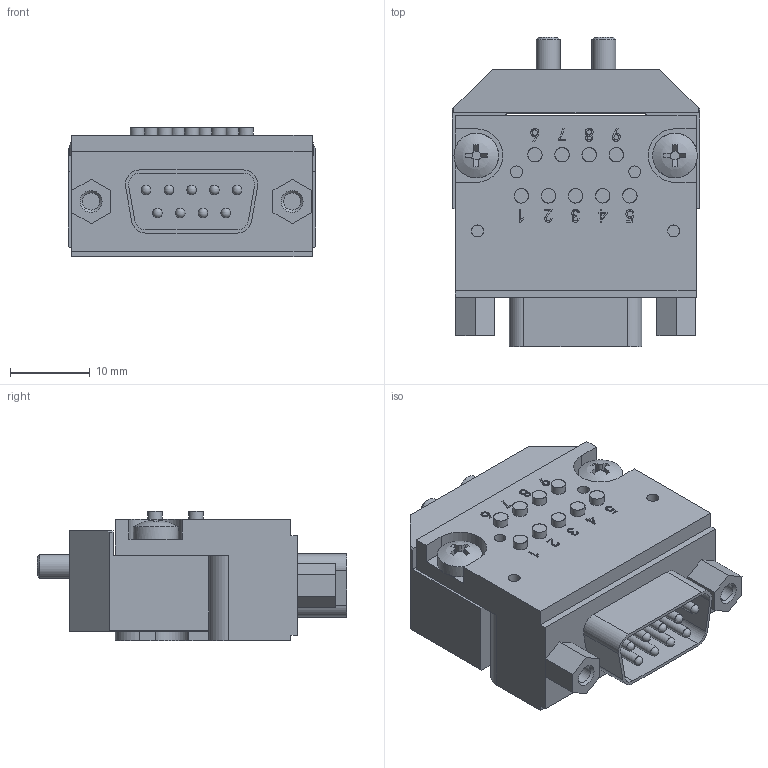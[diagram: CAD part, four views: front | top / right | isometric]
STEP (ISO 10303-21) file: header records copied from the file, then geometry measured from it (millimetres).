
FILE_DESCRIPTION(/* description */ (''),/* implementation_level */ '2;1');
FILE_NAME(/* name */ '9R1',/* time_stamp */ '2020-09-26T16:49:00+08:00',/* author */ (''),/* organization */ (''),/* preprocessor_version */ 'ST-DEVELOPER v9',/* originating_system */ 'UGS - NX 4.0',/* authorisation */ '');
FILE_SCHEMA (('AUTOMOTIVE_DESIGN { 1 0 10303 214 1 1 1 1 }'));
Length unit declared in the file: millimetre
Products named in the file (1): admi1C5698wk
Bounding box: 31 x 38.8 x 16.2 mm (x, y, z)
Volume: 12229 mm3; surface area: 6388.5 mm2
Topology: 1 solids, 15 shells, 472 faces, 1146 edges, 742 vertices
Faces by surface type: plane 253, cylinder 110, cone 53, extrusion 30, sphere 15, bspline 9, torus 2
Full cylindrical faces by diameter (mm): 1.2 x9, 1.5 x4, 1.8 x9, 2.156 x2, 2.5 x2, 3 x14, 3.2 x2, 3.5 x2, 4 x4, 4.2 x2, 5.5 x2, 5.6 x2, 6 x2
Entity records: 14808 total; most frequent: CARTESIAN_POINT 4417, DIRECTION 2100, ORIENTED_EDGE 1984, EDGE_CURVE 992, AXIS2_PLACEMENT_3D 766, VERTEX_POINT 701, EDGE_LOOP 627, VECTOR 568
